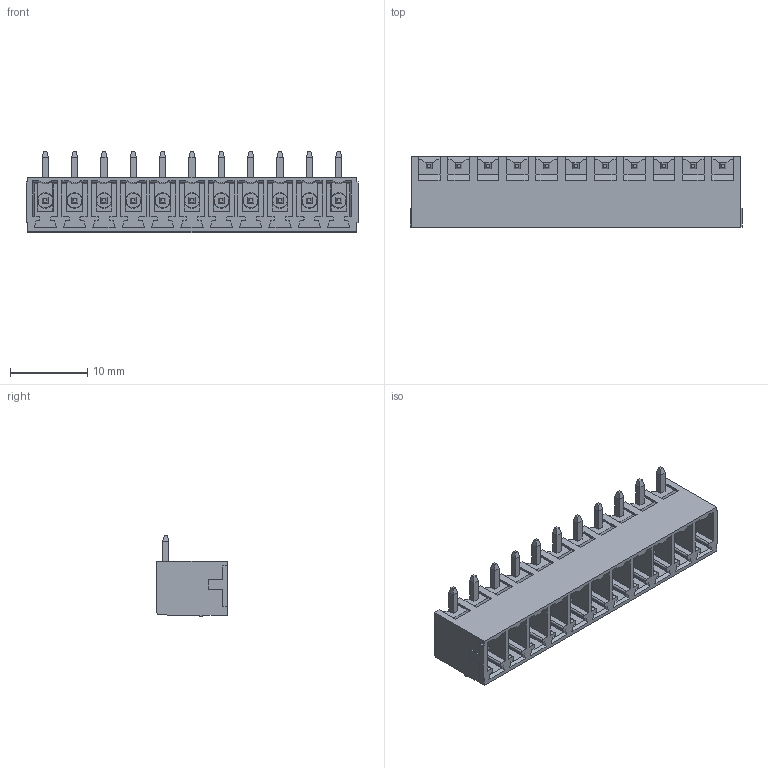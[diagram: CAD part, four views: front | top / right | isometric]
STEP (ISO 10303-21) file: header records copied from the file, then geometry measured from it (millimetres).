
FILE_DESCRIPTION(('FreeCAD Model'),'2;1');
FILE_NAME('Open CASCADE Shape Model','2023-05-24T16:21:10',('Author'),( ''),'Open CASCADE STEP processor 7.6','FreeCAD','Unknown');
FILE_SCHEMA(('AUTOMOTIVE_DESIGN { 1 0 10303 214 1 1 1 1 }'));
Products named in the file (1): BR7MN2-11
Bounding box: 43.1 x 9.2 x 10.6 mm (x, y, z)
Volume: 1309.5 mm3; surface area: 3944.6 mm2
Topology: 1 solids, 12 shells, 951 faces, 2440 edges, 1535 vertices
Faces by surface type: plane 829, cylinder 67, cone 33, sphere 22
Entity records: 60868 total; most frequent: CARTESIAN_POINT 11555, DIRECTION 9239, LINE 6722, VECTOR 6722, ORIENTED_EDGE 4836, PCURVE 4836, DEFINITIONAL_REPRESENTATION 4836, EDGE_CURVE 2418
